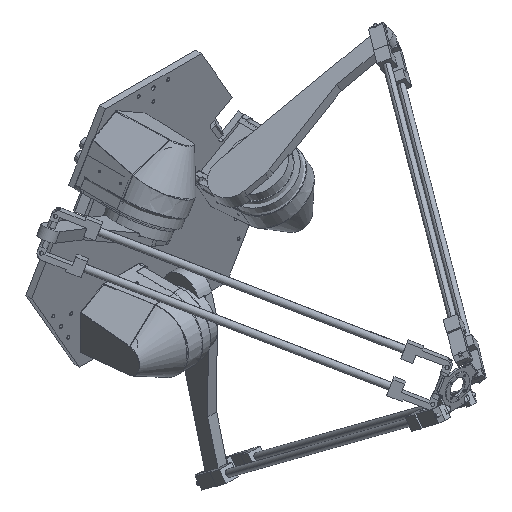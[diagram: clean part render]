
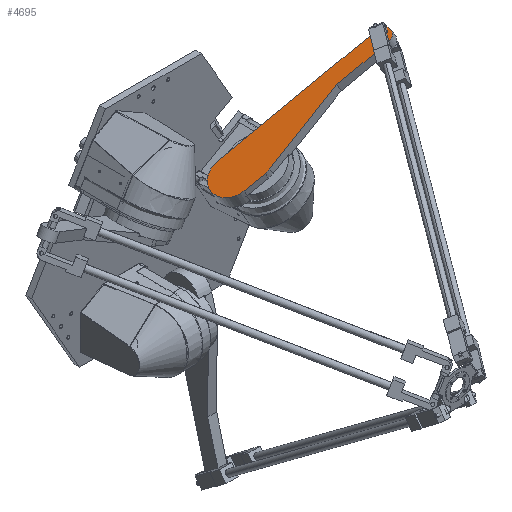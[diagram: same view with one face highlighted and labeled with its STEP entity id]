
A CAD part, isometric view. The second image highlights one B-rep face of the part: STEP entity #4695.
In plain terms, the highlighted planar face has unit normal (-0.5, 0, 0.866) as drawn and (0, 0, 1) by its records, which use the part's own axes.
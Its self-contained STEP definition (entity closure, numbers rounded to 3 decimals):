
#4193=DIRECTION('',(-1.,0.,0.));
#4194=VECTOR('',#4193,493.573);
#4195=CARTESIAN_POINT('',(428.573,60.,15.));
#4196=LINE('',#4195,#4194);
#4205=CARTESIAN_POINT('',(0.,0.,15.));
#4206=DIRECTION('',(0.,0.,1.));
#4207=DIRECTION('',(0.,-1.,0.));
#4208=AXIS2_PLACEMENT_3D('',#4205,#4206,#4207);
#4210=DIRECTION('',(1.,0.,0.));
#4211=VECTOR('',#4210,65.);
#4212=CARTESIAN_POINT('',(-65.,-60.,15.));
#4213=LINE('',#4212,#4211);
#4214=CARTESIAN_POINT('',(-65.,0.,15.));
#4215=DIRECTION('',(0.,0.,1.));
#4216=DIRECTION('',(0.,1.,0.));
#4217=AXIS2_PLACEMENT_3D('',#4214,#4215,#4216);
#4219=CARTESIAN_POINT('',(428.573,35.,15.));
#4220=DIRECTION('',(0.,0.,1.));
#4221=DIRECTION('',(0.,-1.,0.));
#4222=AXIS2_PLACEMENT_3D('',#4219,#4220,#4221);
#4224=DIRECTION('',(1.,0.,0.));
#4225=VECTOR('',#4224,159.431);
#4226=CARTESIAN_POINT('',(269.143,10.,15.));
#4227=LINE('',#4226,#4225);
#4228=DIRECTION('',(0.966,0.259,0.));
#4229=VECTOR('',#4228,262.56);
#4230=CARTESIAN_POINT('',(15.529,-57.956,15.));
#4231=LINE('',#4230,#4229);
#4232=CARTESIAN_POINT('',(428.573,35.,15.));
#4233=DIRECTION('',(0.,0.,1.));
#4234=DIRECTION('',(1.,0.,0.));
#4235=AXIS2_PLACEMENT_3D('',#4232,#4233,#4234);
#4237=CARTESIAN_POINT('',(428.573,35.,15.));
#4238=DIRECTION('',(0.,0.,1.));
#4239=DIRECTION('',(-1.,0.,0.));
#4240=AXIS2_PLACEMENT_3D('',#4237,#4238,#4239);
#4371=CARTESIAN_POINT('',(428.573,10.,15.));
#4372=CARTESIAN_POINT('',(428.573,60.,15.));
#4373=VERTEX_POINT('',#4371);
#4374=VERTEX_POINT('',#4372);
#4401=CARTESIAN_POINT('',(15.529,-57.956,15.));
#4402=CARTESIAN_POINT('',(269.143,10.,15.));
#4403=VERTEX_POINT('',#4401);
#4404=VERTEX_POINT('',#4402);
#4407=CARTESIAN_POINT('',(-65.,60.,15.));
#4408=CARTESIAN_POINT('',(-65.,-60.,15.));
#4409=VERTEX_POINT('',#4407);
#4410=VERTEX_POINT('',#4408);
#4416=CARTESIAN_POINT('',(0.,-60.,15.));
#4418=VERTEX_POINT('',#4416);
#4447=CARTESIAN_POINT('',(438.573,35.,15.));
#4448=CARTESIAN_POINT('',(418.573,35.,15.));
#4449=VERTEX_POINT('',#4447);
#4450=VERTEX_POINT('',#4448);
#4670=CARTESIAN_POINT('',(0.,0.,15.));
#4671=DIRECTION('',(0.,0.,1.));
#4672=DIRECTION('',(1.,0.,0.));
#4673=AXIS2_PLACEMENT_3D('',#4670,#4671,#4672);
#4674=PLANE('',#4673);
#4676=ORIENTED_EDGE('',*,*,#4675,.F.);
#4678=ORIENTED_EDGE('',*,*,#4677,.F.);
#4679=ORIENTED_EDGE('',*,*,#4637,.F.);
#4680=ORIENTED_EDGE('',*,*,#4659,.F.);
#4682=ORIENTED_EDGE('',*,*,#4681,.F.);
#4684=ORIENTED_EDGE('',*,*,#4683,.F.);
#4686=ORIENTED_EDGE('',*,*,#4685,.F.);
#4687=EDGE_LOOP('',(#4676,#4678,#4679,#4680,#4682,#4684,#4686));
#4688=FACE_OUTER_BOUND('',#4687,.F.);
#4690=ORIENTED_EDGE('',*,*,#4689,.T.);
#4692=ORIENTED_EDGE('',*,*,#4691,.T.);
#4693=EDGE_LOOP('',(#4690,#4692));
#4694=FACE_BOUND('',#4693,.F.);
#4695=ADVANCED_FACE('',(#4688,#4694),#4674,.T.);
#4209=CIRCLE('',#4208,60.);
#4218=CIRCLE('',#4217,60.);
#4223=CIRCLE('',#4222,25.);
#4236=CIRCLE('',#4235,10.);
#4241=CIRCLE('',#4240,10.);
#4637=EDGE_CURVE('',#4409,#4410,#4218,.T.);
#4659=EDGE_CURVE('',#4374,#4409,#4196,.T.);
#4675=EDGE_CURVE('',#4418,#4403,#4209,.T.);
#4677=EDGE_CURVE('',#4410,#4418,#4213,.T.);
#4681=EDGE_CURVE('',#4373,#4374,#4223,.T.);
#4683=EDGE_CURVE('',#4404,#4373,#4227,.T.);
#4685=EDGE_CURVE('',#4403,#4404,#4231,.T.);
#4689=EDGE_CURVE('',#4449,#4450,#4236,.T.);
#4691=EDGE_CURVE('',#4450,#4449,#4241,.T.);
